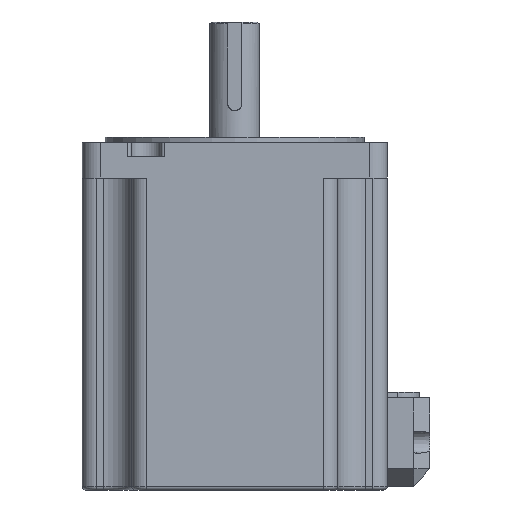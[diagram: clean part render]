
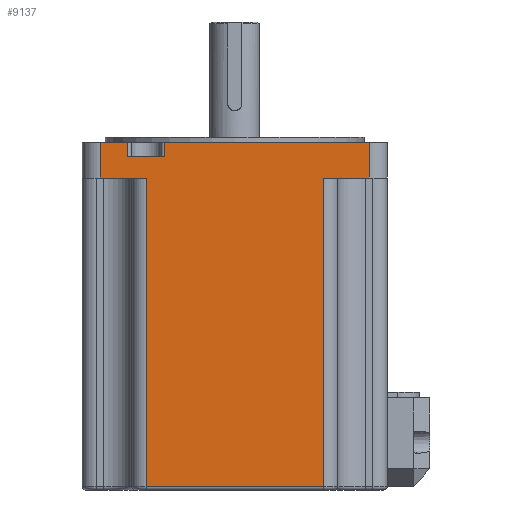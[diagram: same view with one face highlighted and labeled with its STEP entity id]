
A CAD part, front view. The second image highlights one B-rep face of the part: STEP entity #9137.
In plain terms, the highlighted planar face has unit normal (0, -1, 0).
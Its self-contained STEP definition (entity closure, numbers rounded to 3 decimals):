
#1164=DIRECTION('',(0.,0.,1.));
#1165=VECTOR('',#1164,10.);
#1166=CARTESIAN_POINT('',(5.,0.,50.));
#1167=LINE('',#1166,#1165);
#1172=DIRECTION('',(-1.,0.,0.));
#1173=VECTOR('',#1172,7.75);
#1174=CARTESIAN_POINT('',(12.75,0.,60.));
#1175=LINE('',#1174,#1173);
#1176=DIRECTION('',(-1.,0.,0.));
#1177=VECTOR('',#1176,57.75);
#1178=CARTESIAN_POINT('',(81.,0.,60.));
#1179=LINE('',#1178,#1177);
#1184=DIRECTION('',(0.,0.,1.));
#1185=VECTOR('',#1184,87.);
#1186=CARTESIAN_POINT('',(18.,0.,-37.));
#1187=LINE('',#1186,#1185);
#1212=DIRECTION('',(-1.,0.,0.));
#1213=VECTOR('',#1212,13.);
#1214=CARTESIAN_POINT('',(18.,0.,50.));
#1215=LINE('',#1214,#1213);
#1319=DIRECTION('',(-1.,0.,0.));
#1320=VECTOR('',#1319,50.);
#1321=CARTESIAN_POINT('',(68.,0.,-37.));
#1322=LINE('',#1321,#1320);
#1342=DIRECTION('',(0.,0.,-1.));
#1343=VECTOR('',#1342,87.);
#1344=CARTESIAN_POINT('',(68.,0.,50.));
#1345=LINE('',#1344,#1343);
#1373=DIRECTION('',(-1.,0.,0.));
#1374=VECTOR('',#1373,13.);
#1375=CARTESIAN_POINT('',(81.,0.,50.));
#1376=LINE('',#1375,#1374);
#6047=DIRECTION('',(0.,0.,-1.));
#6048=VECTOR('',#6047,10.);
#6049=CARTESIAN_POINT('',(81.,0.,60.));
#6050=LINE('',#6049,#6048);
#6059=DIRECTION('',(0.,0.,-1.));
#6060=VECTOR('',#6059,4.);
#6061=CARTESIAN_POINT('',(12.75,0.,60.));
#6062=LINE('',#6061,#6060);
#6067=DIRECTION('',(1.,0.,0.));
#6068=VECTOR('',#6067,10.5);
#6069=CARTESIAN_POINT('',(12.75,0.,56.));
#6070=LINE('',#6069,#6068);
#6117=DIRECTION('',(0.,0.,1.));
#6118=VECTOR('',#6117,4.);
#6119=CARTESIAN_POINT('',(23.25,0.,56.));
#6120=LINE('',#6119,#6118);
#6523=CARTESIAN_POINT('',(12.75,0.,56.));
#6524=CARTESIAN_POINT('',(23.25,0.,56.));
#6525=VERTEX_POINT('',#6523);
#6526=VERTEX_POINT('',#6524);
#6575=CARTESIAN_POINT('',(5.,0.,60.));
#6576=VERTEX_POINT('',#6575);
#6577=CARTESIAN_POINT('',(12.75,0.,60.));
#6578=VERTEX_POINT('',#6577);
#6587=CARTESIAN_POINT('',(23.25,0.,60.));
#6588=VERTEX_POINT('',#6587);
#6589=CARTESIAN_POINT('',(81.,0.,60.));
#6590=VERTEX_POINT('',#6589);
#6631=CARTESIAN_POINT('',(18.,0.,-37.));
#6632=CARTESIAN_POINT('',(18.,0.,50.));
#6633=VERTEX_POINT('',#6631);
#6634=VERTEX_POINT('',#6632);
#6635=CARTESIAN_POINT('',(68.,0.,-37.));
#6636=VERTEX_POINT('',#6635);
#6637=CARTESIAN_POINT('',(68.,0.,50.));
#6638=VERTEX_POINT('',#6637);
#6639=CARTESIAN_POINT('',(81.,0.,50.));
#6640=VERTEX_POINT('',#6639);
#6641=CARTESIAN_POINT('',(5.,0.,50.));
#6642=VERTEX_POINT('',#6641);
#9109=CARTESIAN_POINT('',(0.,0.,60.));
#9110=DIRECTION('',(0.,1.,0.));
#9111=DIRECTION('',(-1.,0.,0.));
#9112=AXIS2_PLACEMENT_3D('',#9109,#9110,#9111);
#9113=PLANE('',#9112);
#9115=ORIENTED_EDGE('',*,*,#9114,.T.);
#9117=ORIENTED_EDGE('',*,*,#9116,.T.);
#9118=ORIENTED_EDGE('',*,*,#9101,.T.);
#9119=ORIENTED_EDGE('',*,*,#7698,.F.);
#9121=ORIENTED_EDGE('',*,*,#9120,.T.);
#9123=ORIENTED_EDGE('',*,*,#9122,.T.);
#9125=ORIENTED_EDGE('',*,*,#9124,.T.);
#9126=ORIENTED_EDGE('',*,*,#7686,.F.);
#9128=ORIENTED_EDGE('',*,*,#9127,.T.);
#9130=ORIENTED_EDGE('',*,*,#9129,.T.);
#9132=ORIENTED_EDGE('',*,*,#9131,.T.);
#9134=ORIENTED_EDGE('',*,*,#9133,.T.);
#9135=EDGE_LOOP('',(#9115,#9117,#9118,#9119,#9121,#9123,#9125,#9126,#9128,#9130,
#9132,#9134));
#9136=FACE_OUTER_BOUND('',#9135,.F.);
#9137=ADVANCED_FACE('',(#9136),#9113,.F.);
#7686=EDGE_CURVE('',#6590,#6588,#1179,.T.);
#7698=EDGE_CURVE('',#6578,#6576,#1175,.T.);
#9101=EDGE_CURVE('',#6642,#6576,#1167,.T.);
#9114=EDGE_CURVE('',#6633,#6634,#1187,.T.);
#9116=EDGE_CURVE('',#6634,#6642,#1215,.T.);
#9120=EDGE_CURVE('',#6578,#6525,#6062,.T.);
#9122=EDGE_CURVE('',#6525,#6526,#6070,.T.);
#9124=EDGE_CURVE('',#6526,#6588,#6120,.T.);
#9127=EDGE_CURVE('',#6590,#6640,#6050,.T.);
#9129=EDGE_CURVE('',#6640,#6638,#1376,.T.);
#9131=EDGE_CURVE('',#6638,#6636,#1345,.T.);
#9133=EDGE_CURVE('',#6636,#6633,#1322,.T.);
